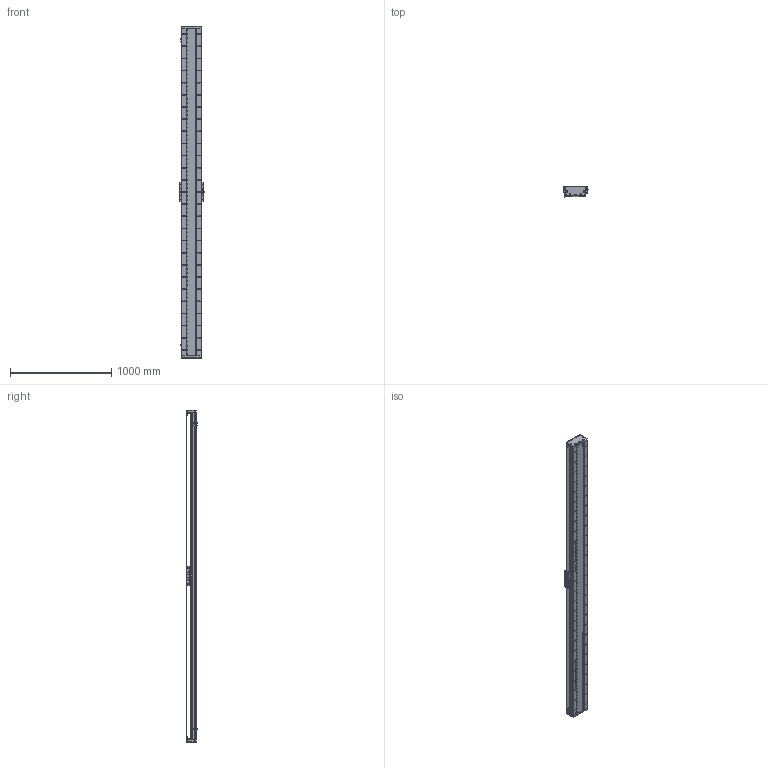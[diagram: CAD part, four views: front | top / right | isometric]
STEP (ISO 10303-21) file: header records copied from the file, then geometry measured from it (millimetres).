
FILE_DESCRIPTION (( 'STEP AP203' ), '1' );
FILE_NAME ('DA-C195-C2-T3000-C010-0.2 眻盄萇儂.STEP', '2025-08-15T01:17:16', ( '' ), ( '' ), 'SwSTEP 2.0', 'SolidWorks 2019', '' );
FILE_SCHEMA (( 'CONFIG_CONTROL_DESIGN' ));
Length unit declared in the file: millimetre
Products named in the file (15): IU-CU195-L-00 菁釱(L3240); DA195詩湍郪璃; LMT黍杅芛; DA-C195-GD-DB-H-00 傷啣; IU-CU195-L 菁釱絳寢; PM-T45ㄗ侂狟ㄘ; DA165-GYP-00 光电感应片(默认); DA195詩湍嶺輸; CU195-C2賑輸-俋楷; 葩璃 DA95-GT-T-00; DA-C195-C2-T3000-C010-0.2 眻盄萇儂; DA95-HXJ-00 遣喳砎蝶; DA195詩湍裔啣; DA195詩湍菜輸; MS200 棠掑喜S315-T1740
Assembly tree (29 placements, depth 3):
  DA-C195-C2-T3000-C010-0.2 眻盄萇儂
    DA195詩湍郪璃
      DA195詩湍菜輸  x2
      DA195詩湍裔啣
      DA195詩湍嶺輸  x2
      DA95-HXJ-00 遣喳砎蝶  x8
      DA-C195-GD-DB-H-00 傷啣  x2
    IU-CU195-L 菁釱絳寢
      IU-CU195-L-00 菁釱(L3240)
      葩璃 DA95-GT-T-00  x4
    LMT黍杅芛
    MS200 棠掑喜S315-T1740
    PM-T45ㄗ侂狟ㄘ  x3
    DA165-GYP-00 光电感应片(默认)
    CU195-C2賑輸-俋楷
Bounding box: 248 x 115.45 x 3280 mm (x, y, z)
Volume: 18373035.7 mm3; surface area: 5476440.6 mm2
Topology: 66 solids, 130 shells, 4652 faces, 13267 edges, 8391 vertices
Faces by surface type: cylinder 2623, plane 1411, cone 530, torus 52, sphere 36
Entity records: 154199 total; most frequent: CARTESIAN_POINT 43510, ORIENTED_EDGE 23418, DIRECTION 22112, EDGE_CURVE 11709, AXIS2_PLACEMENT_3D 8325, VERTEX_POINT 7593, LINE 5462, VECTOR 5462
